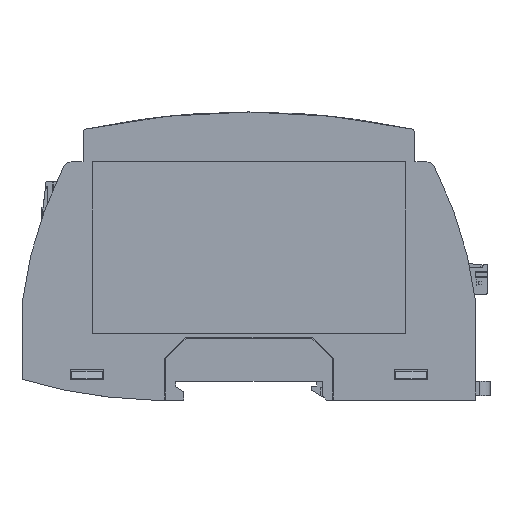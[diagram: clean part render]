
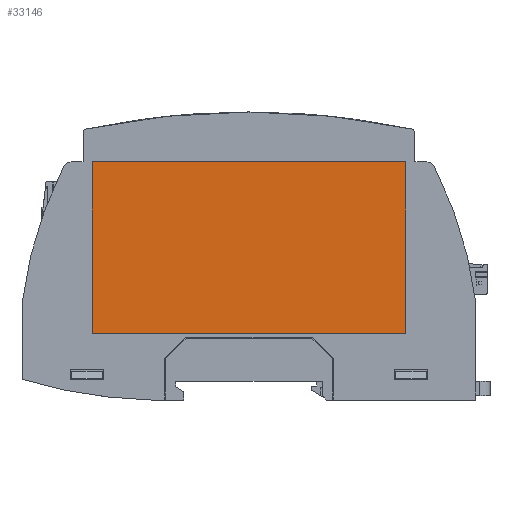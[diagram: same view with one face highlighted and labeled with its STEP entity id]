
A CAD part, left-side view. The second image highlights one B-rep face of the part: STEP entity #33146.
In plain terms, the highlighted planar face has unit normal (-1, 0, 0).
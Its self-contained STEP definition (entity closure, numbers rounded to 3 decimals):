
#10609 = CARTESIAN_POINT ( 'NONE',  ( -74.531, -33.061, 208.7 ) ) ;
#27455 = CARTESIAN_POINT ( 'NONE',  ( -74.531, -33.061, 167.2 ) ) ;
#32036 = EDGE_CURVE ( 'NONE', #270431, #150763, #208525, .T. ) ;
#32593 = PLANE ( 'NONE',  #45836 ) ;
#33146 = ADVANCED_FACE ( 'NONE', ( #140955 ), #32593, .T. ) ;
#45836 = AXIS2_PLACEMENT_3D ( 'NONE', #142574, #333607, #170004 ) ;
#46484 = VECTOR ( 'NONE', #152330, 1000. ) ;
#55011 = LINE ( 'NONE', #124868, #46484 ) ;
#65208 = CARTESIAN_POINT ( 'NONE',  ( -74.531, 42.939, 208.7 ) ) ;
#65769 = VERTEX_POINT ( 'NONE', #27455 ) ;
#82189 = LINE ( 'NONE', #183407, #218790 ) ;
#86650 = CARTESIAN_POINT ( 'NONE',  ( -74.531, -33.061, 167.2 ) ) ;
#104676 = ORIENTED_EDGE ( 'NONE', *, *, #334155, .T. ) ;
#113008 = DIRECTION ( 'NONE',  ( 0., 0., 1. ) ) ;
#123659 = LINE ( 'NONE', #86650, #268663 ) ;
#124868 = CARTESIAN_POINT ( 'NONE',  ( -74.531, 42.939, 208.7 ) ) ;
#131445 = CARTESIAN_POINT ( 'NONE',  ( -74.531, 42.939, 167.2 ) ) ;
#140955 = FACE_OUTER_BOUND ( 'NONE', #279300, .T. ) ;
#142574 = CARTESIAN_POINT ( 'NONE',  ( -74.531, -33.061, 167.2 ) ) ;
#150763 = VERTEX_POINT ( 'NONE', #160660 ) ;
#152330 = DIRECTION ( 'NONE',  ( 0., 1., 0. ) ) ;
#160660 = CARTESIAN_POINT ( 'NONE',  ( -74.531, 42.939, 167.2 ) ) ;
#165746 = EDGE_CURVE ( 'NONE', #197383, #270431, #55011, .T. ) ;
#170004 = DIRECTION ( 'NONE',  ( 0., 0., 1. ) ) ;
#183407 = CARTESIAN_POINT ( 'NONE',  ( -74.531, 42.939, 167.2 ) ) ;
#187790 = ORIENTED_EDGE ( 'NONE', *, *, #272198, .T. ) ;
#197383 = VERTEX_POINT ( 'NONE', #10609 ) ;
#208525 = LINE ( 'NONE', #131445, #345336 ) ;
#208968 = ORIENTED_EDGE ( 'NONE', *, *, #165746, .T. ) ;
#213662 = DIRECTION ( 'NONE',  ( 0., 0., -1. ) ) ;
#218790 = VECTOR ( 'NONE', #239290, 1000. ) ;
#239290 = DIRECTION ( 'NONE',  ( 0., -1., 0. ) ) ;
#268663 = VECTOR ( 'NONE', #113008, 1000. ) ;
#270431 = VERTEX_POINT ( 'NONE', #65208 ) ;
#272198 = EDGE_CURVE ( 'NONE', #150763, #65769, #82189, .T. ) ;
#279300 = EDGE_LOOP ( 'NONE', ( #187790, #104676, #208968, #289065 ) ) ;
#289065 = ORIENTED_EDGE ( 'NONE', *, *, #32036, .T. ) ;
#333607 = DIRECTION ( 'NONE',  ( -1., 0., 0. ) ) ;
#334155 = EDGE_CURVE ( 'NONE', #65769, #197383, #123659, .T. ) ;
#345336 = VECTOR ( 'NONE', #213662, 1000. ) ;
